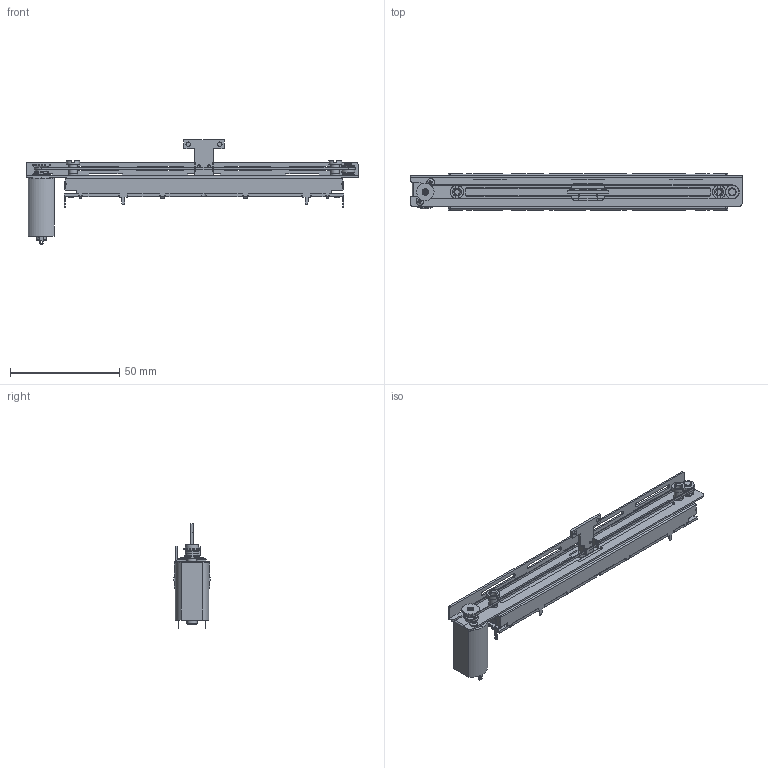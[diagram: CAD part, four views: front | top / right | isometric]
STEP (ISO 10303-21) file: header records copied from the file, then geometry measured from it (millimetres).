
FILE_DESCRIPTION(('FreeCAD Model'),'2;1');
FILE_NAME('Open CASCADE Shape Model','2025-09-08T12:55:35',(''),(''), 'Open CASCADE STEP processor 7.8','FreeCAD','Unknown');
FILE_SCHEMA(('AUTOMOTIVE_DESIGN { 1 0 10303 214 1 1 1 1 }'));
Length unit declared in the file: millimetre
Products named in the file (1): MLA2-1100
Bounding box: 152 x 16.5 x 47.8 mm (x, y, z)
Volume: 24688.5 mm3; surface area: 14137 mm2
Topology: 1 solids, 7 shells, 920 faces, 2507 edges, 1633 vertices
Faces by surface type: plane 625, cylinder 247, cone 39, torus 6, sphere 2, bspline 1
Full cylindrical faces by diameter (mm): 0.5 x5, 1.2 x6, 1.25 x2, 1.5 x4, 2 x7, 3 x10, 3.2 x2, 3.5 x5, 3.7 x1, 4 x5, 4.5 x2, 4.7 x2, 5 x2, 5.38 x1, 5.6 x1, 6 x4, 6.5 x1, 8 x1
Entity records: 35290 total; most frequent: CARTESIAN_POINT 5174, DIRECTION 5047, ORIENTED_EDGE 5014, EDGE_CURVE 2505, LINE 1773, VECTOR 1773, AXIS2_PLACEMENT_3D 1637, VERTEX_POINT 1633
